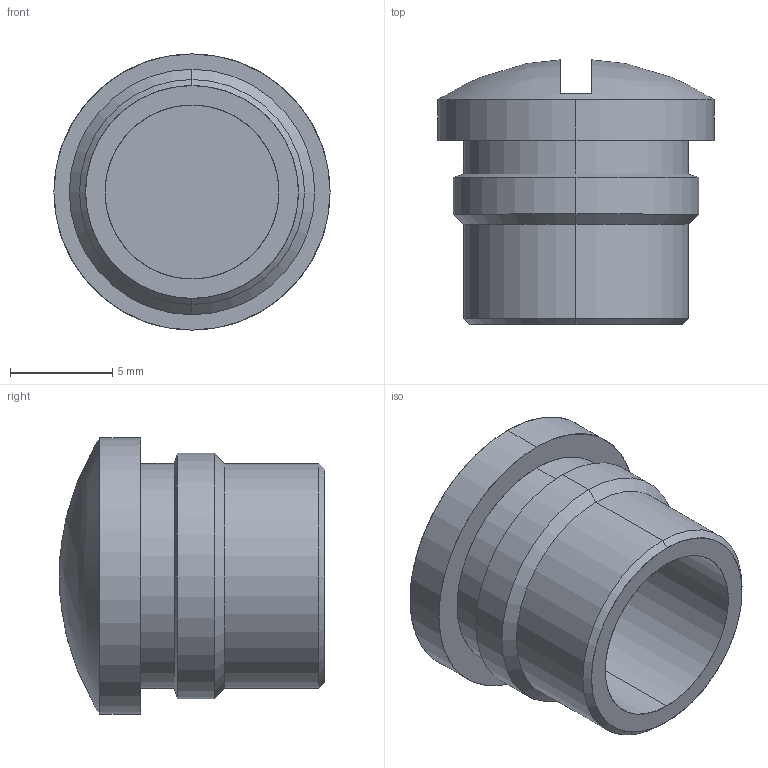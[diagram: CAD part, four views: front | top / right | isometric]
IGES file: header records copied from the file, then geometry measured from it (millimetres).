
Start section: SolidWorks IGES file using analytic representation for surfaces
Bounding box: 13.5 x 12.98 x 13.5 mm (x, y, z)
Surface area: 983.7 mm2 (no closed solid volume)
Topology: 0 solids, 0 shells, 23 faces, 284 edges, 284 vertices
Faces by surface type: revolution 16, bspline 7
